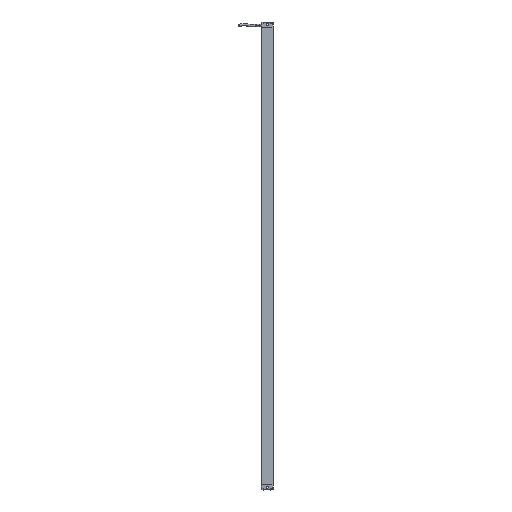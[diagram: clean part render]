
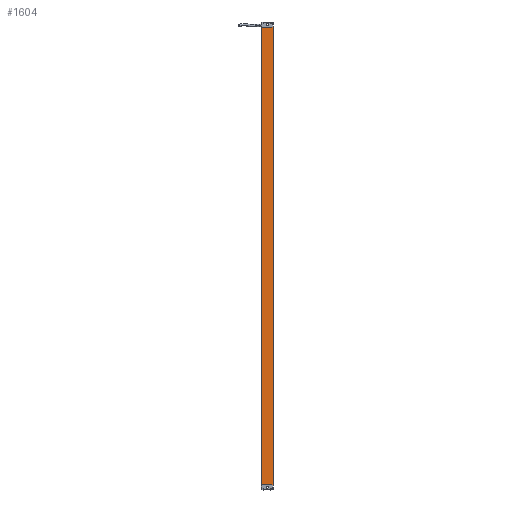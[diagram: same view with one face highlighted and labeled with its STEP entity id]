
A CAD part, front view. The second image highlights one B-rep face of the part: STEP entity #1604.
In plain terms, the highlighted planar face has unit normal (-0.001, -1, 0).
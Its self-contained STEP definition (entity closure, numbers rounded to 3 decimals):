
#1604=ADVANCED_FACE('',(#2720),#2349,.T.);
#2349=PLANE('',#14604);
#2720=FACE_OUTER_BOUND('',#3441,.T.);
#3441=EDGE_LOOP('',(#4477,#4478,#4479,#4480));
#4477=ORIENTED_EDGE('',*,*,#10104,.T.);
#4478=ORIENTED_EDGE('',*,*,#10057,.F.);
#4479=ORIENTED_EDGE('',*,*,#10102,.T.);
#4480=ORIENTED_EDGE('',*,*,#10105,.T.);
#8601=VERTEX_POINT('',#19887);
#8602=VERTEX_POINT('',#19889);
#8639=VERTEX_POINT('',#19978);
#8640=VERTEX_POINT('',#19982);
#10057=EDGE_CURVE('',#8601,#8602,#12174,.T.);
#10102=EDGE_CURVE('',#8601,#8639,#12205,.T.);
#10104=EDGE_CURVE('',#8640,#8602,#12206,.T.);
#10105=EDGE_CURVE('',#8639,#8640,#12207,.T.);
#12174=LINE('',#19888,#13389);
#12205=LINE('',#19977,#13420);
#12206=LINE('',#19981,#13421);
#12207=LINE('',#19983,#13422);
#13389=VECTOR('',#16033,1.);
#13420=VECTOR('',#16106,1.);
#13421=VECTOR('',#16111,1.);
#13422=VECTOR('',#16112,1.);
#14604=AXIS2_PLACEMENT_3D('',#19984,#16113,#16114);
#16033=DIRECTION('',(1.,-0.001,0.));
#16106=DIRECTION('',(0.,0.,-1.));
#16111=DIRECTION('',(0.,0.,1.));
#16112=DIRECTION('',(1.,-0.001,0.));
#16113=DIRECTION('',(-0.001,-1.,0.));
#16114=DIRECTION('',(1.,-0.001,0.));
#19887=CARTESIAN_POINT('',(53.048,-142.376,1240.376));
#19888=CARTESIAN_POINT('',(79.028,-142.395,1240.376));
#19889=CARTESIAN_POINT('',(79.028,-142.395,1240.376));
#19977=CARTESIAN_POINT('',(53.048,-142.376,543.376));
#19978=CARTESIAN_POINT('',(53.048,-142.376,198.376));
#19981=CARTESIAN_POINT('',(79.028,-142.395,198.376));
#19982=CARTESIAN_POINT('',(79.028,-142.395,198.376));
#19983=CARTESIAN_POINT('',(53.048,-142.376,198.376));
#19984=CARTESIAN_POINT('',(79.028,-142.395,543.376));
